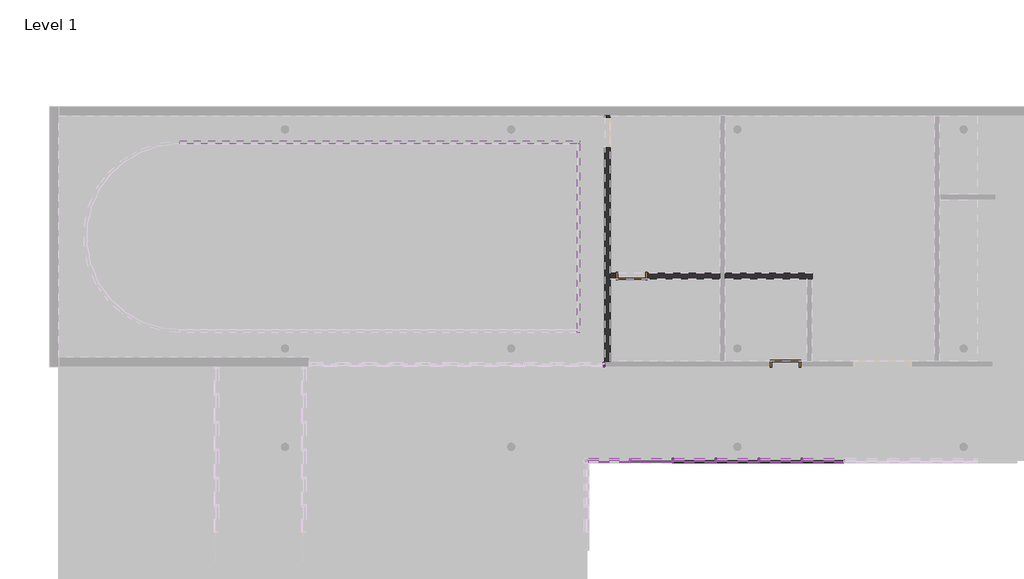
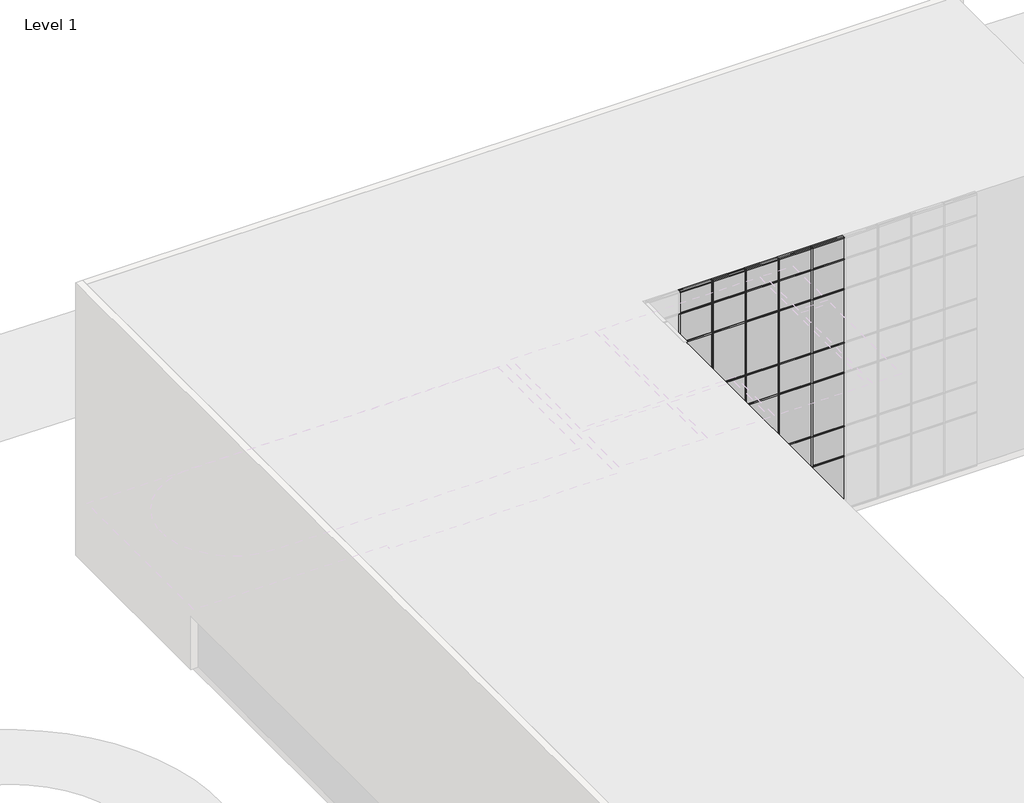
# One storey, part 15 of 18: 76 members, 37 plates, 4 walls, 2 doors.
"""IFC4 building model written with IfcOpenShell, lengths in millimetres."""

from ifc_helpers import new_model, si_unit, origin, place, context, project, spatial, faceted_brep, transform, mapped, element, save
from components import door_0915mm_x_2134mm_2aa27b83, door_0915mm_x_2134mm_3fa07aa3, rectangular_mullion_50mm_x_150mm_550cda47, rectangular_mullion_50mm_x_150mm_0f59f38f, rectangular_mullion_50mm_x_150mm_22af440f, rectangular_mullion_50mm_x_150mm_5a36e067, rectangular_mullion_50mm_x_150mm_73e7bd4c, rectangular_mullion_50mm_x_150mm_da00b109, rectangular_mullion_50mm_x_150mm_bbc1c4ea, rectangular_mullion_50mm_x_150mm_36202a7c, rectangular_mullion_50mm_x_150mm_84717ec5, system_panel_glazed_6032f2be, system_panel_glazed_cd6fe77c, system_panel_solid_87c6c2f1, system_panel_solid_b23a9ee6, system_panel_solid_e0f9033a

model = new_model("IFC4")

# Units and contexts
model_context = context("Model", 3, world=origin())
ifc_project = project(units=[si_unit("LENGTHUNIT", "METRE", prefix="MILLI")], contexts=[model_context])

# Site, building, storey
site = spatial("IfcSite", under=ifc_project)
building = spatial("IfcBuilding", under=site)
storey = spatial("IfcBuildingStorey", under=building, Name="Level 1", Elevation=0.0)

# Doors
placement = place(None, origin())
door_0915mm_x_2134mm_shape = door_0915mm_x_2134mm_2aa27b83(model_context)
element("IfcDoor", 1, ObjectType="m-doors-hm-f1-a : 0915mm x 2134mm", at=placement, inside=storey, context=model_context, shape_type="MappedRepresentation", body=[
    mapped(door_0915mm_x_2134mm_shape, transform((14023.5010724, 22787.5799804, 0.0), x_axis=(1.0, 0.0, 0.0), y_axis=(0.0, 1.0, 0.0), z_axis=(0.0, 0.0, 1.0))),
])
door_0915mm_x_2134mm_2_shape = door_0915mm_x_2134mm_3fa07aa3(model_context)
element("IfcDoor", 2, ObjectType="m-doors-hm-f1-a : 0915mm x 2134mm", at=placement, inside=storey, context=model_context, shape_type="MappedRepresentation", body=[
    mapped(door_0915mm_x_2134mm_2_shape, transform((8939.5010724, 25345.5799804, 0.0), x_axis=(1.0, 0.0, 0.0), y_axis=(0.0, 1.0, 0.0), z_axis=(0.0, 0.0, 1.0))),
])

# Members
rectangular_mullion_50mm_x_150mm_shape = rectangular_mullion_50mm_x_150mm_550cda47(model_context)
element("IfcMember", 3, ObjectType="Rectangular Mullion : 50mm x 150mm", at=placement, inside=storey, context=model_context, shape_type="MappedRepresentation", body=[
    mapped(rectangular_mullion_50mm_x_150mm_shape, transform((8047.5010724, 22595.5799804, 2235.0), x_axis=(1.0, 0.0, 0.0), y_axis=(0.0, 1.0, 0.0), z_axis=(0.0, 0.0, 1.0))),
])
rectangular_mullion_50mm_x_150mm_2_shape = rectangular_mullion_50mm_x_150mm_0f59f38f(model_context)
element("IfcMember", 4, ObjectType="Rectangular Mullion : 50mm x 150mm", at=placement, inside=storey, context=model_context, shape_type="MappedRepresentation", body=[
    mapped(rectangular_mullion_50mm_x_150mm_2_shape, transform((8047.5010724, 22595.5799804, 3550.0), x_axis=(1.0, 0.0, 0.0), y_axis=(0.0, 1.0, 0.0), z_axis=(0.0, 0.0, 1.0))),
])
rectangular_mullion_50mm_x_150mm_3_shape = rectangular_mullion_50mm_x_150mm_22af440f(model_context)
element("IfcMember", 5, ObjectType="Rectangular Mullion : 50mm x 150mm", at=placement, inside=storey, context=model_context, shape_type="MappedRepresentation", body=[
    mapped(rectangular_mullion_50mm_x_150mm_3_shape, transform((8047.5010724, 22595.5799804, 2135.0), x_axis=(1.0, 0.0, 0.0), y_axis=(0.0, 1.0, 0.0), z_axis=(0.0, 0.0, 1.0))),
])
rectangular_mullion_50mm_x_150mm_4_shape = rectangular_mullion_50mm_x_150mm_5a36e067(model_context)
element("IfcMember", 6, ObjectType="Rectangular Mullion : 50mm x 150mm", at=placement, inside=storey, context=model_context, shape_type="MappedRepresentation", body=[
    mapped(rectangular_mullion_50mm_x_150mm_4_shape, transform((10274.5580493, 19414.8392059, 12400.0), x_axis=(0.0, 0.0, 1.0), y_axis=(0.0, -1.0, 0.0), z_axis=(1.0, 0.0, 0.0))),
])
element("IfcMember", 7, ObjectType="Rectangular Mullion : 50mm x 150mm", at=placement, inside=storey, context=model_context, shape_type="MappedRepresentation", body=[
    mapped(rectangular_mullion_50mm_x_150mm_4_shape, transform((11700.5865377, 19414.8392059, 12400.0), x_axis=(0.0, 0.0, 1.0), y_axis=(0.0, -1.0, 0.0), z_axis=(1.0, 0.0, 0.0))),
])
element("IfcMember", 8, ObjectType="Rectangular Mullion : 50mm x 150mm", at=placement, inside=storey, context=model_context, shape_type="MappedRepresentation", body=[
    mapped(rectangular_mullion_50mm_x_150mm_4_shape, transform((13126.615026, 19414.8392059, 12400.0), x_axis=(0.0, 0.0, 1.0), y_axis=(0.0, -1.0, 0.0), z_axis=(1.0, 0.0, 0.0))),
])
element("IfcMember", 9, ObjectType="Rectangular Mullion : 50mm x 150mm", at=placement, inside=storey, context=model_context, shape_type="MappedRepresentation", body=[
    mapped(rectangular_mullion_50mm_x_150mm_4_shape, transform((14552.6435143, 19414.8392059, 12400.0), x_axis=(0.0, 0.0, 1.0), y_axis=(0.0, -1.0, 0.0), z_axis=(1.0, 0.0, 0.0))),
])
element("IfcMember", 10, ObjectType="Rectangular Mullion : 50mm x 150mm", at=placement, inside=storey, context=model_context, shape_type="MappedRepresentation", body=[
    mapped(rectangular_mullion_50mm_x_150mm_4_shape, transform((15978.6720027, 19414.8392059, 12400.0), x_axis=(0.0, 0.0, 1.0), y_axis=(0.0, -1.0, 0.0), z_axis=(1.0, 0.0, 0.0))),
])
element("IfcMember", 11, ObjectType="Rectangular Mullion : 50mm x 150mm", at=placement, inside=storey, context=model_context, shape_type="MappedRepresentation", body=[
    mapped(rectangular_mullion_50mm_x_150mm_4_shape, transform((10324.5580493, 19414.8392059, 0.0), x_axis=(0.0, 0.0, -1.0), y_axis=(0.0, -1.0, 0.0), z_axis=(-1.0, 0.0, 0.0))),
])
element("IfcMember", 12, ObjectType="Rectangular Mullion : 50mm x 150mm", at=placement, inside=storey, context=model_context, shape_type="MappedRepresentation", body=[
    mapped(rectangular_mullion_50mm_x_150mm_4_shape, transform((11750.5865377, 19414.8392059, 0.0), x_axis=(0.0, 0.0, -1.0), y_axis=(0.0, -1.0, 0.0), z_axis=(-1.0, 0.0, 0.0))),
])
element("IfcMember", 13, ObjectType="Rectangular Mullion : 50mm x 150mm", at=placement, inside=storey, context=model_context, shape_type="MappedRepresentation", body=[
    mapped(rectangular_mullion_50mm_x_150mm_4_shape, transform((13176.615026, 19414.8392059, 0.0), x_axis=(0.0, 0.0, -1.0), y_axis=(0.0, -1.0, 0.0), z_axis=(-1.0, 0.0, 0.0))),
])
element("IfcMember", 14, ObjectType="Rectangular Mullion : 50mm x 150mm", at=placement, inside=storey, context=model_context, shape_type="MappedRepresentation", body=[
    mapped(rectangular_mullion_50mm_x_150mm_4_shape, transform((14602.6435143, 19414.8392059, 0.0), x_axis=(0.0, 0.0, -1.0), y_axis=(0.0, -1.0, 0.0), z_axis=(-1.0, 0.0, 0.0))),
])
rectangular_mullion_50mm_x_150mm_5_shape = rectangular_mullion_50mm_x_150mm_73e7bd4c(model_context)
element("IfcMember", 15, ObjectType="Rectangular Mullion : 50mm x 150mm", at=placement, inside=storey, context=model_context, shape_type="MappedRepresentation", body=[
    mapped(rectangular_mullion_50mm_x_150mm_5_shape, transform((10274.5580493, 19414.8392059, 3800.0), x_axis=(0.0, 0.0, 1.0), y_axis=(0.0, -1.0, 0.0), z_axis=(1.0, 0.0, 0.0))),
])
element("IfcMember", 16, ObjectType="Rectangular Mullion : 50mm x 150mm", at=placement, inside=storey, context=model_context, shape_type="MappedRepresentation", body=[
    mapped(rectangular_mullion_50mm_x_150mm_5_shape, transform((11700.5865377, 19414.8392059, 3800.0), x_axis=(0.0, 0.0, 1.0), y_axis=(0.0, -1.0, 0.0), z_axis=(1.0, 0.0, 0.0))),
])
element("IfcMember", 17, ObjectType="Rectangular Mullion : 50mm x 150mm", at=placement, inside=storey, context=model_context, shape_type="MappedRepresentation", body=[
    mapped(rectangular_mullion_50mm_x_150mm_5_shape, transform((13126.615026, 19414.8392059, 3800.0), x_axis=(0.0, 0.0, 1.0), y_axis=(0.0, -1.0, 0.0), z_axis=(1.0, 0.0, 0.0))),
])
element("IfcMember", 18, ObjectType="Rectangular Mullion : 50mm x 150mm", at=placement, inside=storey, context=model_context, shape_type="MappedRepresentation", body=[
    mapped(rectangular_mullion_50mm_x_150mm_5_shape, transform((14552.6435143, 19414.8392059, 3800.0), x_axis=(0.0, 0.0, 1.0), y_axis=(0.0, -1.0, 0.0), z_axis=(1.0, 0.0, 0.0))),
])
element("IfcMember", 19, ObjectType="Rectangular Mullion : 50mm x 150mm", at=placement, inside=storey, context=model_context, shape_type="MappedRepresentation", body=[
    mapped(rectangular_mullion_50mm_x_150mm_5_shape, transform((15978.6720027, 19414.8392059, 3800.0), x_axis=(0.0, 0.0, 1.0), y_axis=(0.0, -1.0, 0.0), z_axis=(1.0, 0.0, 0.0))),
])
element("IfcMember", 20, ObjectType="Rectangular Mullion : 50mm x 150mm", at=placement, inside=storey, context=model_context, shape_type="MappedRepresentation", body=[
    mapped(rectangular_mullion_50mm_x_150mm_5_shape, transform((10274.5580493, 19414.8392059, 7600.0), x_axis=(0.0, 0.0, 1.0), y_axis=(0.0, -1.0, 0.0), z_axis=(1.0, 0.0, 0.0))),
])
element("IfcMember", 21, ObjectType="Rectangular Mullion : 50mm x 150mm", at=placement, inside=storey, context=model_context, shape_type="MappedRepresentation", body=[
    mapped(rectangular_mullion_50mm_x_150mm_5_shape, transform((11700.5865377, 19414.8392059, 7600.0), x_axis=(0.0, 0.0, 1.0), y_axis=(0.0, -1.0, 0.0), z_axis=(1.0, 0.0, 0.0))),
])
element("IfcMember", 22, ObjectType="Rectangular Mullion : 50mm x 150mm", at=placement, inside=storey, context=model_context, shape_type="MappedRepresentation", body=[
    mapped(rectangular_mullion_50mm_x_150mm_5_shape, transform((13126.615026, 19414.8392059, 7600.0), x_axis=(0.0, 0.0, 1.0), y_axis=(0.0, -1.0, 0.0), z_axis=(1.0, 0.0, 0.0))),
])
element("IfcMember", 23, ObjectType="Rectangular Mullion : 50mm x 150mm", at=placement, inside=storey, context=model_context, shape_type="MappedRepresentation", body=[
    mapped(rectangular_mullion_50mm_x_150mm_5_shape, transform((14552.6435143, 19414.8392059, 7600.0), x_axis=(0.0, 0.0, 1.0), y_axis=(0.0, -1.0, 0.0), z_axis=(1.0, 0.0, 0.0))),
])
element("IfcMember", 24, ObjectType="Rectangular Mullion : 50mm x 150mm", at=placement, inside=storey, context=model_context, shape_type="MappedRepresentation", body=[
    mapped(rectangular_mullion_50mm_x_150mm_5_shape, transform((15978.6720027, 19414.8392059, 7600.0), x_axis=(0.0, 0.0, 1.0), y_axis=(0.0, -1.0, 0.0), z_axis=(1.0, 0.0, 0.0))),
])
element("IfcMember", 25, ObjectType="Rectangular Mullion : 50mm x 150mm", at=placement, inside=storey, context=model_context, shape_type="MappedRepresentation", body=[
    mapped(rectangular_mullion_50mm_x_150mm_5_shape, transform((10274.5580493, 19414.8392059, 11400.0), x_axis=(0.0, 0.0, 1.0), y_axis=(0.0, -1.0, 0.0), z_axis=(1.0, 0.0, 0.0))),
])
element("IfcMember", 26, ObjectType="Rectangular Mullion : 50mm x 150mm", at=placement, inside=storey, context=model_context, shape_type="MappedRepresentation", body=[
    mapped(rectangular_mullion_50mm_x_150mm_5_shape, transform((11700.5865377, 19414.8392059, 11400.0), x_axis=(0.0, 0.0, 1.0), y_axis=(0.0, -1.0, 0.0), z_axis=(1.0, 0.0, 0.0))),
])
element("IfcMember", 27, ObjectType="Rectangular Mullion : 50mm x 150mm", at=placement, inside=storey, context=model_context, shape_type="MappedRepresentation", body=[
    mapped(rectangular_mullion_50mm_x_150mm_5_shape, transform((13126.615026, 19414.8392059, 11400.0), x_axis=(0.0, 0.0, 1.0), y_axis=(0.0, -1.0, 0.0), z_axis=(1.0, 0.0, 0.0))),
])
element("IfcMember", 28, ObjectType="Rectangular Mullion : 50mm x 150mm", at=placement, inside=storey, context=model_context, shape_type="MappedRepresentation", body=[
    mapped(rectangular_mullion_50mm_x_150mm_5_shape, transform((14552.6435143, 19414.8392059, 11400.0), x_axis=(0.0, 0.0, 1.0), y_axis=(0.0, -1.0, 0.0), z_axis=(1.0, 0.0, 0.0))),
])
element("IfcMember", 29, ObjectType="Rectangular Mullion : 50mm x 150mm", at=placement, inside=storey, context=model_context, shape_type="MappedRepresentation", body=[
    mapped(rectangular_mullion_50mm_x_150mm_5_shape, transform((15978.6720027, 19414.8392059, 11400.0), x_axis=(0.0, 0.0, 1.0), y_axis=(0.0, -1.0, 0.0), z_axis=(1.0, 0.0, 0.0))),
])
element("IfcMember", 30, ObjectType="Rectangular Mullion : 50mm x 150mm", at=placement, inside=storey, context=model_context, shape_type="MappedRepresentation", body=[
    mapped(rectangular_mullion_50mm_x_150mm_5_shape, transform((10274.5580493, 19414.8392059, 10040.0), x_axis=(0.0, 0.0, 1.0), y_axis=(0.0, -1.0, 0.0), z_axis=(1.0, 0.0, 0.0))),
])
element("IfcMember", 31, ObjectType="Rectangular Mullion : 50mm x 150mm", at=placement, inside=storey, context=model_context, shape_type="MappedRepresentation", body=[
    mapped(rectangular_mullion_50mm_x_150mm_5_shape, transform((11700.5865377, 19414.8392059, 10040.0), x_axis=(0.0, 0.0, 1.0), y_axis=(0.0, -1.0, 0.0), z_axis=(1.0, 0.0, 0.0))),
])
element("IfcMember", 32, ObjectType="Rectangular Mullion : 50mm x 150mm", at=placement, inside=storey, context=model_context, shape_type="MappedRepresentation", body=[
    mapped(rectangular_mullion_50mm_x_150mm_5_shape, transform((13126.615026, 19414.8392059, 10040.0), x_axis=(0.0, 0.0, 1.0), y_axis=(0.0, -1.0, 0.0), z_axis=(1.0, 0.0, 0.0))),
])
element("IfcMember", 33, ObjectType="Rectangular Mullion : 50mm x 150mm", at=placement, inside=storey, context=model_context, shape_type="MappedRepresentation", body=[
    mapped(rectangular_mullion_50mm_x_150mm_5_shape, transform((14552.6435143, 19414.8392059, 10040.0), x_axis=(0.0, 0.0, 1.0), y_axis=(0.0, -1.0, 0.0), z_axis=(1.0, 0.0, 0.0))),
])
element("IfcMember", 34, ObjectType="Rectangular Mullion : 50mm x 150mm", at=placement, inside=storey, context=model_context, shape_type="MappedRepresentation", body=[
    mapped(rectangular_mullion_50mm_x_150mm_5_shape, transform((15978.6720027, 19414.8392059, 10040.0), x_axis=(0.0, 0.0, 1.0), y_axis=(0.0, -1.0, 0.0), z_axis=(1.0, 0.0, 0.0))),
])
element("IfcMember", 35, ObjectType="Rectangular Mullion : 50mm x 150mm", at=placement, inside=storey, context=model_context, shape_type="MappedRepresentation", body=[
    mapped(rectangular_mullion_50mm_x_150mm_5_shape, transform((10274.5580493, 19414.8392059, 6240.0), x_axis=(0.0, 0.0, 1.0), y_axis=(0.0, -1.0, 0.0), z_axis=(1.0, 0.0, 0.0))),
])
element("IfcMember", 36, ObjectType="Rectangular Mullion : 50mm x 150mm", at=placement, inside=storey, context=model_context, shape_type="MappedRepresentation", body=[
    mapped(rectangular_mullion_50mm_x_150mm_5_shape, transform((11700.5865377, 19414.8392059, 6240.0), x_axis=(0.0, 0.0, 1.0), y_axis=(0.0, -1.0, 0.0), z_axis=(1.0, 0.0, 0.0))),
])
element("IfcMember", 37, ObjectType="Rectangular Mullion : 50mm x 150mm", at=placement, inside=storey, context=model_context, shape_type="MappedRepresentation", body=[
    mapped(rectangular_mullion_50mm_x_150mm_5_shape, transform((13126.615026, 19414.8392059, 6240.0), x_axis=(0.0, 0.0, 1.0), y_axis=(0.0, -1.0, 0.0), z_axis=(1.0, 0.0, 0.0))),
])
element("IfcMember", 38, ObjectType="Rectangular Mullion : 50mm x 150mm", at=placement, inside=storey, context=model_context, shape_type="MappedRepresentation", body=[
    mapped(rectangular_mullion_50mm_x_150mm_5_shape, transform((14552.6435143, 19414.8392059, 6240.0), x_axis=(0.0, 0.0, 1.0), y_axis=(0.0, -1.0, 0.0), z_axis=(1.0, 0.0, 0.0))),
])
element("IfcMember", 39, ObjectType="Rectangular Mullion : 50mm x 150mm", at=placement, inside=storey, context=model_context, shape_type="MappedRepresentation", body=[
    mapped(rectangular_mullion_50mm_x_150mm_5_shape, transform((15978.6720027, 19414.8392059, 6240.0), x_axis=(0.0, 0.0, 1.0), y_axis=(0.0, -1.0, 0.0), z_axis=(1.0, 0.0, 0.0))),
])
element("IfcMember", 40, ObjectType="Rectangular Mullion : 50mm x 150mm", at=placement, inside=storey, context=model_context, shape_type="MappedRepresentation", body=[
    mapped(rectangular_mullion_50mm_x_150mm_5_shape, transform((10274.5580493, 19414.8392059, 2440.0), x_axis=(0.0, 0.0, 1.0), y_axis=(0.0, -1.0, 0.0), z_axis=(1.0, 0.0, 0.0))),
])
element("IfcMember", 41, ObjectType="Rectangular Mullion : 50mm x 150mm", at=placement, inside=storey, context=model_context, shape_type="MappedRepresentation", body=[
    mapped(rectangular_mullion_50mm_x_150mm_5_shape, transform((11700.5865377, 19414.8392059, 2440.0), x_axis=(0.0, 0.0, 1.0), y_axis=(0.0, -1.0, 0.0), z_axis=(1.0, 0.0, 0.0))),
])
element("IfcMember", 42, ObjectType="Rectangular Mullion : 50mm x 150mm", at=placement, inside=storey, context=model_context, shape_type="MappedRepresentation", body=[
    mapped(rectangular_mullion_50mm_x_150mm_5_shape, transform((13126.615026, 19414.8392059, 2440.0), x_axis=(0.0, 0.0, 1.0), y_axis=(0.0, -1.0, 0.0), z_axis=(1.0, 0.0, 0.0))),
])
element("IfcMember", 43, ObjectType="Rectangular Mullion : 50mm x 150mm", at=placement, inside=storey, context=model_context, shape_type="MappedRepresentation", body=[
    mapped(rectangular_mullion_50mm_x_150mm_5_shape, transform((14552.6435143, 19414.8392059, 2440.0), x_axis=(0.0, 0.0, 1.0), y_axis=(0.0, -1.0, 0.0), z_axis=(1.0, 0.0, 0.0))),
])
element("IfcMember", 44, ObjectType="Rectangular Mullion : 50mm x 150mm", at=placement, inside=storey, context=model_context, shape_type="MappedRepresentation", body=[
    mapped(rectangular_mullion_50mm_x_150mm_5_shape, transform((15978.6720027, 19414.8392059, 2440.0), x_axis=(0.0, 0.0, 1.0), y_axis=(0.0, -1.0, 0.0), z_axis=(1.0, 0.0, 0.0))),
])
rectangular_mullion_50mm_x_150mm_6_shape = rectangular_mullion_50mm_x_150mm_da00b109(model_context)
element("IfcMember", 45, ObjectType="Rectangular Mullion : 50mm x 150mm", at=placement, inside=storey, context=model_context, shape_type="MappedRepresentation", body=[
    mapped(rectangular_mullion_50mm_x_150mm_6_shape, transform((8848.529561, 19414.8392059, 10040.0), x_axis=(0.0, 0.0, 1.0), y_axis=(0.0, -1.0, 0.0), z_axis=(1.0, 0.0, 0.0))),
])
element("IfcMember", 46, ObjectType="Rectangular Mullion : 50mm x 150mm", at=placement, inside=storey, context=model_context, shape_type="MappedRepresentation", body=[
    mapped(rectangular_mullion_50mm_x_150mm_6_shape, transform((8848.529561, 19414.8392059, 6240.0), x_axis=(0.0, 0.0, 1.0), y_axis=(0.0, -1.0, 0.0), z_axis=(1.0, 0.0, 0.0))),
])
element("IfcMember", 47, ObjectType="Rectangular Mullion : 50mm x 150mm", at=placement, inside=storey, context=model_context, shape_type="MappedRepresentation", body=[
    mapped(rectangular_mullion_50mm_x_150mm_6_shape, transform((8848.529561, 19414.8392059, 2440.0), x_axis=(0.0, 0.0, 1.0), y_axis=(0.0, -1.0, 0.0), z_axis=(1.0, 0.0, 0.0))),
])
rectangular_mullion_50mm_x_150mm_7_shape = rectangular_mullion_50mm_x_150mm_bbc1c4ea(model_context)
element("IfcMember", 48, ObjectType="Rectangular Mullion : 50mm x 150mm", at=placement, inside=storey, context=model_context, shape_type="MappedRepresentation", body=[
    mapped(rectangular_mullion_50mm_x_150mm_7_shape, transform((10299.5580493, 19414.8392059, 11400.0), x_axis=(1.0, 0.0, 0.0), y_axis=(0.0, -1.0, 0.0), z_axis=(0.0, 0.0, -1.0))),
])
element("IfcMember", 49, ObjectType="Rectangular Mullion : 50mm x 150mm", at=placement, inside=storey, context=model_context, shape_type="MappedRepresentation", body=[
    mapped(rectangular_mullion_50mm_x_150mm_7_shape, transform((11725.5865377, 19414.8392059, 11400.0), x_axis=(1.0, 0.0, 0.0), y_axis=(0.0, -1.0, 0.0), z_axis=(0.0, 0.0, -1.0))),
])
element("IfcMember", 50, ObjectType="Rectangular Mullion : 50mm x 150mm", at=placement, inside=storey, context=model_context, shape_type="MappedRepresentation", body=[
    mapped(rectangular_mullion_50mm_x_150mm_7_shape, transform((13151.615026, 19414.8392059, 11400.0), x_axis=(1.0, 0.0, 0.0), y_axis=(0.0, -1.0, 0.0), z_axis=(0.0, 0.0, -1.0))),
])
element("IfcMember", 51, ObjectType="Rectangular Mullion : 50mm x 150mm", at=placement, inside=storey, context=model_context, shape_type="MappedRepresentation", body=[
    mapped(rectangular_mullion_50mm_x_150mm_7_shape, transform((14577.6435143, 19414.8392059, 11400.0), x_axis=(1.0, 0.0, 0.0), y_axis=(0.0, -1.0, 0.0), z_axis=(0.0, 0.0, -1.0))),
])
rectangular_mullion_50mm_x_150mm_8_shape = rectangular_mullion_50mm_x_150mm_36202a7c(model_context)
element("IfcMember", 52, ObjectType="Rectangular Mullion : 50mm x 150mm", at=placement, inside=storey, context=model_context, shape_type="MappedRepresentation", body=[
    mapped(rectangular_mullion_50mm_x_150mm_8_shape, transform((10299.5580493, 19414.8392059, 0.0), x_axis=(1.0, 0.0, 0.0), y_axis=(0.0, -1.0, 0.0), z_axis=(0.0, 0.0, -1.0))),
])
element("IfcMember", 53, ObjectType="Rectangular Mullion : 50mm x 150mm", at=placement, inside=storey, context=model_context, shape_type="MappedRepresentation", body=[
    mapped(rectangular_mullion_50mm_x_150mm_8_shape, transform((11725.5865377, 19414.8392059, 0.0), x_axis=(1.0, 0.0, 0.0), y_axis=(0.0, -1.0, 0.0), z_axis=(0.0, 0.0, -1.0))),
])
element("IfcMember", 54, ObjectType="Rectangular Mullion : 50mm x 150mm", at=placement, inside=storey, context=model_context, shape_type="MappedRepresentation", body=[
    mapped(rectangular_mullion_50mm_x_150mm_8_shape, transform((13151.615026, 19414.8392059, 0.0), x_axis=(1.0, 0.0, 0.0), y_axis=(0.0, -1.0, 0.0), z_axis=(0.0, 0.0, -1.0))),
])
element("IfcMember", 55, ObjectType="Rectangular Mullion : 50mm x 150mm", at=placement, inside=storey, context=model_context, shape_type="MappedRepresentation", body=[
    mapped(rectangular_mullion_50mm_x_150mm_8_shape, transform((14577.6435143, 19414.8392059, 0.0), x_axis=(1.0, 0.0, 0.0), y_axis=(0.0, -1.0, 0.0), z_axis=(0.0, 0.0, -1.0))),
])
rectangular_mullion_50mm_x_150mm_9_shape = rectangular_mullion_50mm_x_150mm_84717ec5(model_context)
element("IfcMember", 56, ObjectType="Rectangular Mullion : 50mm x 150mm", at=placement, inside=storey, context=model_context, shape_type="MappedRepresentation", body=[
    mapped(rectangular_mullion_50mm_x_150mm_9_shape, transform((8873.529561, 19414.8392059, 10040.0), x_axis=(1.0, 0.0, 0.0), y_axis=(0.0, -1.0, 0.0), z_axis=(0.0, 0.0, -1.0))),
])
element("IfcMember", 57, ObjectType="Rectangular Mullion : 50mm x 150mm", at=placement, inside=storey, context=model_context, shape_type="MappedRepresentation", body=[
    mapped(rectangular_mullion_50mm_x_150mm_9_shape, transform((10299.5580493, 19414.8392059, 10040.0), x_axis=(1.0, 0.0, 0.0), y_axis=(0.0, -1.0, 0.0), z_axis=(0.0, 0.0, -1.0))),
])
element("IfcMember", 58, ObjectType="Rectangular Mullion : 50mm x 150mm", at=placement, inside=storey, context=model_context, shape_type="MappedRepresentation", body=[
    mapped(rectangular_mullion_50mm_x_150mm_9_shape, transform((11725.5865377, 19414.8392059, 10040.0), x_axis=(1.0, 0.0, 0.0), y_axis=(0.0, -1.0, 0.0), z_axis=(0.0, 0.0, -1.0))),
])
element("IfcMember", 59, ObjectType="Rectangular Mullion : 50mm x 150mm", at=placement, inside=storey, context=model_context, shape_type="MappedRepresentation", body=[
    mapped(rectangular_mullion_50mm_x_150mm_9_shape, transform((13151.615026, 19414.8392059, 10040.0), x_axis=(1.0, 0.0, 0.0), y_axis=(0.0, -1.0, 0.0), z_axis=(0.0, 0.0, -1.0))),
])
element("IfcMember", 60, ObjectType="Rectangular Mullion : 50mm x 150mm", at=placement, inside=storey, context=model_context, shape_type="MappedRepresentation", body=[
    mapped(rectangular_mullion_50mm_x_150mm_9_shape, transform((14577.6435143, 19414.8392059, 10040.0), x_axis=(1.0, 0.0, 0.0), y_axis=(0.0, -1.0, 0.0), z_axis=(0.0, 0.0, -1.0))),
])
element("IfcMember", 61, ObjectType="Rectangular Mullion : 50mm x 150mm", at=placement, inside=storey, context=model_context, shape_type="MappedRepresentation", body=[
    mapped(rectangular_mullion_50mm_x_150mm_9_shape, transform((8873.529561, 19414.8392059, 6240.0), x_axis=(1.0, 0.0, 0.0), y_axis=(0.0, -1.0, 0.0), z_axis=(0.0, 0.0, -1.0))),
])
element("IfcMember", 62, ObjectType="Rectangular Mullion : 50mm x 150mm", at=placement, inside=storey, context=model_context, shape_type="MappedRepresentation", body=[
    mapped(rectangular_mullion_50mm_x_150mm_9_shape, transform((10299.5580493, 19414.8392059, 6240.0), x_axis=(1.0, 0.0, 0.0), y_axis=(0.0, -1.0, 0.0), z_axis=(0.0, 0.0, -1.0))),
])
element("IfcMember", 63, ObjectType="Rectangular Mullion : 50mm x 150mm", at=placement, inside=storey, context=model_context, shape_type="MappedRepresentation", body=[
    mapped(rectangular_mullion_50mm_x_150mm_9_shape, transform((11725.5865377, 19414.8392059, 6240.0), x_axis=(1.0, 0.0, 0.0), y_axis=(0.0, -1.0, 0.0), z_axis=(0.0, 0.0, -1.0))),
])
element("IfcMember", 64, ObjectType="Rectangular Mullion : 50mm x 150mm", at=placement, inside=storey, context=model_context, shape_type="MappedRepresentation", body=[
    mapped(rectangular_mullion_50mm_x_150mm_9_shape, transform((13151.615026, 19414.8392059, 6240.0), x_axis=(1.0, 0.0, 0.0), y_axis=(0.0, -1.0, 0.0), z_axis=(0.0, 0.0, -1.0))),
])
element("IfcMember", 65, ObjectType="Rectangular Mullion : 50mm x 150mm", at=placement, inside=storey, context=model_context, shape_type="MappedRepresentation", body=[
    mapped(rectangular_mullion_50mm_x_150mm_9_shape, transform((14577.6435143, 19414.8392059, 6240.0), x_axis=(1.0, 0.0, 0.0), y_axis=(0.0, -1.0, 0.0), z_axis=(0.0, 0.0, -1.0))),
])
element("IfcMember", 66, ObjectType="Rectangular Mullion : 50mm x 150mm", at=placement, inside=storey, context=model_context, shape_type="MappedRepresentation", body=[
    mapped(rectangular_mullion_50mm_x_150mm_9_shape, transform((8873.529561, 19414.8392059, 2440.0), x_axis=(1.0, 0.0, 0.0), y_axis=(0.0, -1.0, 0.0), z_axis=(0.0, 0.0, -1.0))),
])
element("IfcMember", 67, ObjectType="Rectangular Mullion : 50mm x 150mm", at=placement, inside=storey, context=model_context, shape_type="MappedRepresentation", body=[
    mapped(rectangular_mullion_50mm_x_150mm_9_shape, transform((10299.5580493, 19414.8392059, 2440.0), x_axis=(1.0, 0.0, 0.0), y_axis=(0.0, -1.0, 0.0), z_axis=(0.0, 0.0, -1.0))),
])
element("IfcMember", 68, ObjectType="Rectangular Mullion : 50mm x 150mm", at=placement, inside=storey, context=model_context, shape_type="MappedRepresentation", body=[
    mapped(rectangular_mullion_50mm_x_150mm_9_shape, transform((11725.5865377, 19414.8392059, 2440.0), x_axis=(1.0, 0.0, 0.0), y_axis=(0.0, -1.0, 0.0), z_axis=(0.0, 0.0, -1.0))),
])
element("IfcMember", 69, ObjectType="Rectangular Mullion : 50mm x 150mm", at=placement, inside=storey, context=model_context, shape_type="MappedRepresentation", body=[
    mapped(rectangular_mullion_50mm_x_150mm_9_shape, transform((13151.615026, 19414.8392059, 2440.0), x_axis=(1.0, 0.0, 0.0), y_axis=(0.0, -1.0, 0.0), z_axis=(0.0, 0.0, -1.0))),
])
element("IfcMember", 70, ObjectType="Rectangular Mullion : 50mm x 150mm", at=placement, inside=storey, context=model_context, shape_type="MappedRepresentation", body=[
    mapped(rectangular_mullion_50mm_x_150mm_9_shape, transform((14577.6435143, 19414.8392059, 2440.0), x_axis=(1.0, 0.0, 0.0), y_axis=(0.0, -1.0, 0.0), z_axis=(0.0, 0.0, -1.0))),
])
element("IfcMember", 71, ObjectType="Rectangular Mullion : 50mm x 150mm", at=placement, inside=storey, context=model_context, shape_type="MappedRepresentation", body=[
    mapped(rectangular_mullion_50mm_x_150mm_8_shape, transform((10299.5580493, 19414.8392059, 3800.0), x_axis=(1.0, 0.0, 0.0), y_axis=(0.0, -1.0, 0.0), z_axis=(0.0, 0.0, -1.0))),
])
element("IfcMember", 72, ObjectType="Rectangular Mullion : 50mm x 150mm", at=placement, inside=storey, context=model_context, shape_type="MappedRepresentation", body=[
    mapped(rectangular_mullion_50mm_x_150mm_8_shape, transform((11725.5865377, 19414.8392059, 3800.0), x_axis=(1.0, 0.0, 0.0), y_axis=(0.0, -1.0, 0.0), z_axis=(0.0, 0.0, -1.0))),
])
element("IfcMember", 73, ObjectType="Rectangular Mullion : 50mm x 150mm", at=placement, inside=storey, context=model_context, shape_type="MappedRepresentation", body=[
    mapped(rectangular_mullion_50mm_x_150mm_8_shape, transform((13151.615026, 19414.8392059, 3800.0), x_axis=(1.0, 0.0, 0.0), y_axis=(0.0, -1.0, 0.0), z_axis=(0.0, 0.0, -1.0))),
])
element("IfcMember", 74, ObjectType="Rectangular Mullion : 50mm x 150mm", at=placement, inside=storey, context=model_context, shape_type="MappedRepresentation", body=[
    mapped(rectangular_mullion_50mm_x_150mm_8_shape, transform((14577.6435143, 19414.8392059, 3800.0), x_axis=(1.0, 0.0, 0.0), y_axis=(0.0, -1.0, 0.0), z_axis=(0.0, 0.0, -1.0))),
])
element("IfcMember", 75, ObjectType="Rectangular Mullion : 50mm x 150mm", at=placement, inside=storey, context=model_context, shape_type="MappedRepresentation", body=[
    mapped(rectangular_mullion_50mm_x_150mm_8_shape, transform((10299.5580493, 19414.8392059, 7600.0), x_axis=(1.0, 0.0, 0.0), y_axis=(0.0, -1.0, 0.0), z_axis=(0.0, 0.0, -1.0))),
])
element("IfcMember", 76, ObjectType="Rectangular Mullion : 50mm x 150mm", at=placement, inside=storey, context=model_context, shape_type="MappedRepresentation", body=[
    mapped(rectangular_mullion_50mm_x_150mm_8_shape, transform((11725.5865377, 19414.8392059, 7600.0), x_axis=(1.0, 0.0, 0.0), y_axis=(0.0, -1.0, 0.0), z_axis=(0.0, 0.0, -1.0))),
])
element("IfcMember", 77, ObjectType="Rectangular Mullion : 50mm x 150mm", at=placement, inside=storey, context=model_context, shape_type="MappedRepresentation", body=[
    mapped(rectangular_mullion_50mm_x_150mm_8_shape, transform((13151.615026, 19414.8392059, 7600.0), x_axis=(1.0, 0.0, 0.0), y_axis=(0.0, -1.0, 0.0), z_axis=(0.0, 0.0, -1.0))),
])
element("IfcMember", 78, ObjectType="Rectangular Mullion : 50mm x 150mm", at=placement, inside=storey, context=model_context, shape_type="MappedRepresentation", body=[
    mapped(rectangular_mullion_50mm_x_150mm_8_shape, transform((14577.6435143, 19414.8392059, 7600.0), x_axis=(1.0, 0.0, 0.0), y_axis=(0.0, -1.0, 0.0), z_axis=(0.0, 0.0, -1.0))),
])

# Plates
system_panel_glazed_shape = system_panel_glazed_6032f2be(model_context)
element("IfcPlate", 79, ObjectType="System Panel : Glazed", at=placement, inside=storey, context=model_context, shape_type="MappedRepresentation", body=[
    mapped(system_panel_glazed_shape, transform((9586.5438052, 19414.8392059, 3825.0), x_axis=(1.0, 0.0, 0.0), y_axis=(0.0, 1.0, 0.0), z_axis=(0.0, 0.0, 1.0))),
])
element("IfcPlate", 80, ObjectType="System Panel : Glazed", at=placement, inside=storey, context=model_context, shape_type="MappedRepresentation", body=[
    mapped(system_panel_glazed_shape, transform((11012.5722935, 19414.8392059, 3825.0), x_axis=(1.0, 0.0, 0.0), y_axis=(0.0, 1.0, 0.0), z_axis=(0.0, 0.0, 1.0))),
])
element("IfcPlate", 81, ObjectType="System Panel : Glazed", at=placement, inside=storey, context=model_context, shape_type="MappedRepresentation", body=[
    mapped(system_panel_glazed_shape, transform((12438.6007818, 19414.8392059, 3825.0), x_axis=(1.0, 0.0, 0.0), y_axis=(0.0, 1.0, 0.0), z_axis=(0.0, 0.0, 1.0))),
])
element("IfcPlate", 82, ObjectType="System Panel : Glazed", at=placement, inside=storey, context=model_context, shape_type="MappedRepresentation", body=[
    mapped(system_panel_glazed_shape, transform((13864.6292702, 19414.8392059, 3825.0), x_axis=(1.0, 0.0, 0.0), y_axis=(0.0, 1.0, 0.0), z_axis=(0.0, 0.0, 1.0))),
])
element("IfcPlate", 83, ObjectType="System Panel : Glazed", at=placement, inside=storey, context=model_context, shape_type="MappedRepresentation", body=[
    mapped(system_panel_glazed_shape, transform((15290.6577585, 19414.8392059, 3825.0), x_axis=(1.0, 0.0, 0.0), y_axis=(0.0, 1.0, 0.0), z_axis=(0.0, 0.0, 1.0))),
])
element("IfcPlate", 84, ObjectType="System Panel : Glazed", at=placement, inside=storey, context=model_context, shape_type="MappedRepresentation", body=[
    mapped(system_panel_glazed_shape, transform((9586.5438052, 19414.8392059, 7625.0), x_axis=(1.0, 0.0, 0.0), y_axis=(0.0, 1.0, 0.0), z_axis=(0.0, 0.0, 1.0))),
])
element("IfcPlate", 85, ObjectType="System Panel : Glazed", at=placement, inside=storey, context=model_context, shape_type="MappedRepresentation", body=[
    mapped(system_panel_glazed_shape, transform((11012.5722935, 19414.8392059, 7625.0), x_axis=(1.0, 0.0, 0.0), y_axis=(0.0, 1.0, 0.0), z_axis=(0.0, 0.0, 1.0))),
])
element("IfcPlate", 86, ObjectType="System Panel : Glazed", at=placement, inside=storey, context=model_context, shape_type="MappedRepresentation", body=[
    mapped(system_panel_glazed_shape, transform((12438.6007818, 19414.8392059, 7625.0), x_axis=(1.0, 0.0, 0.0), y_axis=(0.0, 1.0, 0.0), z_axis=(0.0, 0.0, 1.0))),
])
element("IfcPlate", 87, ObjectType="System Panel : Glazed", at=placement, inside=storey, context=model_context, shape_type="MappedRepresentation", body=[
    mapped(system_panel_glazed_shape, transform((13864.6292702, 19414.8392059, 7625.0), x_axis=(1.0, 0.0, 0.0), y_axis=(0.0, 1.0, 0.0), z_axis=(0.0, 0.0, 1.0))),
])
element("IfcPlate", 88, ObjectType="System Panel : Glazed", at=placement, inside=storey, context=model_context, shape_type="MappedRepresentation", body=[
    mapped(system_panel_glazed_shape, transform((15290.6577585, 19414.8392059, 7625.0), x_axis=(1.0, 0.0, 0.0), y_axis=(0.0, 1.0, 0.0), z_axis=(0.0, 0.0, 1.0))),
])
system_panel_glazed_2_shape = system_panel_glazed_cd6fe77c(model_context)
element("IfcPlate", 89, ObjectType="System Panel : Glazed", at=placement, inside=storey, context=model_context, shape_type="MappedRepresentation", body=[
    mapped(system_panel_glazed_2_shape, transform((9586.5438052, 19414.8392059, 50.0), x_axis=(1.0, 0.0, 0.0), y_axis=(0.0, 1.0, 0.0), z_axis=(0.0, 0.0, 1.0))),
])
element("IfcPlate", 90, ObjectType="System Panel : Glazed", at=placement, inside=storey, context=model_context, shape_type="MappedRepresentation", body=[
    mapped(system_panel_glazed_2_shape, transform((11012.5722935, 19414.8392059, 50.0), x_axis=(1.0, 0.0, 0.0), y_axis=(0.0, 1.0, 0.0), z_axis=(0.0, 0.0, 1.0))),
])
element("IfcPlate", 91, ObjectType="System Panel : Glazed", at=placement, inside=storey, context=model_context, shape_type="MappedRepresentation", body=[
    mapped(system_panel_glazed_2_shape, transform((12438.6007818, 19414.8392059, 50.0), x_axis=(1.0, 0.0, 0.0), y_axis=(0.0, 1.0, 0.0), z_axis=(0.0, 0.0, 1.0))),
])
element("IfcPlate", 92, ObjectType="System Panel : Glazed", at=placement, inside=storey, context=model_context, shape_type="MappedRepresentation", body=[
    mapped(system_panel_glazed_2_shape, transform((13864.6292702, 19414.8392059, 50.0), x_axis=(1.0, 0.0, 0.0), y_axis=(0.0, 1.0, 0.0), z_axis=(0.0, 0.0, 1.0))),
])
element("IfcPlate", 93, ObjectType="System Panel : Glazed", at=placement, inside=storey, context=model_context, shape_type="MappedRepresentation", body=[
    mapped(system_panel_glazed_2_shape, transform((15290.6577585, 19414.8392059, 50.0), x_axis=(1.0, 0.0, 0.0), y_axis=(0.0, 1.0, 0.0), z_axis=(0.0, 0.0, 1.0))),
])
system_panel_solid_shape = system_panel_solid_87c6c2f1(model_context)
element("IfcPlate", 94, ObjectType="System Panel : Solid", at=placement, inside=storey, context=model_context, shape_type="MappedRepresentation", body=[
    mapped(system_panel_solid_shape, transform((9586.5438052, 19414.8392059, 11425.0), x_axis=(1.0, 0.0, 0.0), y_axis=(0.0, 1.0, 0.0), z_axis=(0.0, 0.0, 1.0))),
])
element("IfcPlate", 95, ObjectType="System Panel : Solid", at=placement, inside=storey, context=model_context, shape_type="MappedRepresentation", body=[
    mapped(system_panel_solid_shape, transform((11012.5722935, 19414.8392059, 11425.0), x_axis=(1.0, 0.0, 0.0), y_axis=(0.0, 1.0, 0.0), z_axis=(0.0, 0.0, 1.0))),
])
element("IfcPlate", 96, ObjectType="System Panel : Solid", at=placement, inside=storey, context=model_context, shape_type="MappedRepresentation", body=[
    mapped(system_panel_solid_shape, transform((12438.6007818, 19414.8392059, 11425.0), x_axis=(1.0, 0.0, 0.0), y_axis=(0.0, 1.0, 0.0), z_axis=(0.0, 0.0, 1.0))),
])
element("IfcPlate", 97, ObjectType="System Panel : Solid", at=placement, inside=storey, context=model_context, shape_type="MappedRepresentation", body=[
    mapped(system_panel_solid_shape, transform((13864.6292702, 19414.8392059, 11425.0), x_axis=(1.0, 0.0, 0.0), y_axis=(0.0, 1.0, 0.0), z_axis=(0.0, 0.0, 1.0))),
])
element("IfcPlate", 98, ObjectType="System Panel : Solid", at=placement, inside=storey, context=model_context, shape_type="MappedRepresentation", body=[
    mapped(system_panel_solid_shape, transform((15290.6577585, 19414.8392059, 11425.0), x_axis=(1.0, 0.0, 0.0), y_axis=(0.0, 1.0, 0.0), z_axis=(0.0, 0.0, 1.0))),
])
system_panel_solid_2_shape = system_panel_solid_b23a9ee6(model_context)
element("IfcPlate", 99, ObjectType="System Panel : Solid", at=placement, inside=storey, context=model_context, shape_type="MappedRepresentation", body=[
    mapped(system_panel_solid_2_shape, transform((8185.5153167, 19414.8392059, 6265.0), x_axis=(1.0, 0.0, 0.0), y_axis=(0.0, 1.0, 0.0), z_axis=(0.0, 0.0, 1.0))),
])
element("IfcPlate", 100, ObjectType="System Panel : Solid", at=placement, inside=storey, context=model_context, shape_type="MappedRepresentation", body=[
    mapped(system_panel_solid_2_shape, transform((8185.5153167, 19414.8392059, 2465.0), x_axis=(1.0, 0.0, 0.0), y_axis=(0.0, 1.0, 0.0), z_axis=(0.0, 0.0, 1.0))),
])
system_panel_solid_3_shape = system_panel_solid_e0f9033a(model_context)
element("IfcPlate", 101, ObjectType="System Panel : Solid", at=placement, inside=storey, context=model_context, shape_type="MappedRepresentation", body=[
    mapped(system_panel_solid_3_shape, transform((9586.5438052, 19414.8392059, 10065.0), x_axis=(1.0, 0.0, 0.0), y_axis=(0.0, 1.0, 0.0), z_axis=(0.0, 0.0, 1.0))),
])
element("IfcPlate", 102, ObjectType="System Panel : Solid", at=placement, inside=storey, context=model_context, shape_type="MappedRepresentation", body=[
    mapped(system_panel_solid_3_shape, transform((11012.5722935, 19414.8392059, 10065.0), x_axis=(1.0, 0.0, 0.0), y_axis=(0.0, 1.0, 0.0), z_axis=(0.0, 0.0, 1.0))),
])
element("IfcPlate", 103, ObjectType="System Panel : Solid", at=placement, inside=storey, context=model_context, shape_type="MappedRepresentation", body=[
    mapped(system_panel_solid_3_shape, transform((12438.6007818, 19414.8392059, 10065.0), x_axis=(1.0, 0.0, 0.0), y_axis=(0.0, 1.0, 0.0), z_axis=(0.0, 0.0, 1.0))),
])
element("IfcPlate", 104, ObjectType="System Panel : Solid", at=placement, inside=storey, context=model_context, shape_type="MappedRepresentation", body=[
    mapped(system_panel_solid_3_shape, transform((13864.6292702, 19414.8392059, 10065.0), x_axis=(1.0, 0.0, 0.0), y_axis=(0.0, 1.0, 0.0), z_axis=(0.0, 0.0, 1.0))),
])
element("IfcPlate", 105, ObjectType="System Panel : Solid", at=placement, inside=storey, context=model_context, shape_type="MappedRepresentation", body=[
    mapped(system_panel_solid_3_shape, transform((15290.6577585, 19414.8392059, 10065.0), x_axis=(1.0, 0.0, 0.0), y_axis=(0.0, 1.0, 0.0), z_axis=(0.0, 0.0, 1.0))),
])
element("IfcPlate", 106, ObjectType="System Panel : Solid", at=placement, inside=storey, context=model_context, shape_type="MappedRepresentation", body=[
    mapped(system_panel_solid_3_shape, transform((9586.5438052, 19414.8392059, 6265.0), x_axis=(1.0, 0.0, 0.0), y_axis=(0.0, 1.0, 0.0), z_axis=(0.0, 0.0, 1.0))),
])
element("IfcPlate", 107, ObjectType="System Panel : Solid", at=placement, inside=storey, context=model_context, shape_type="MappedRepresentation", body=[
    mapped(system_panel_solid_3_shape, transform((11012.5722935, 19414.8392059, 6265.0), x_axis=(1.0, 0.0, 0.0), y_axis=(0.0, 1.0, 0.0), z_axis=(0.0, 0.0, 1.0))),
])
element("IfcPlate", 108, ObjectType="System Panel : Solid", at=placement, inside=storey, context=model_context, shape_type="MappedRepresentation", body=[
    mapped(system_panel_solid_3_shape, transform((12438.6007818, 19414.8392059, 6265.0), x_axis=(1.0, 0.0, 0.0), y_axis=(0.0, 1.0, 0.0), z_axis=(0.0, 0.0, 1.0))),
])
element("IfcPlate", 109, ObjectType="System Panel : Solid", at=placement, inside=storey, context=model_context, shape_type="MappedRepresentation", body=[
    mapped(system_panel_solid_3_shape, transform((13864.6292702, 19414.8392059, 6265.0), x_axis=(1.0, 0.0, 0.0), y_axis=(0.0, 1.0, 0.0), z_axis=(0.0, 0.0, 1.0))),
])
element("IfcPlate", 110, ObjectType="System Panel : Solid", at=placement, inside=storey, context=model_context, shape_type="MappedRepresentation", body=[
    mapped(system_panel_solid_3_shape, transform((15290.6577585, 19414.8392059, 6265.0), x_axis=(1.0, 0.0, 0.0), y_axis=(0.0, 1.0, 0.0), z_axis=(0.0, 0.0, 1.0))),
])
element("IfcPlate", 111, ObjectType="System Panel : Solid", at=placement, inside=storey, context=model_context, shape_type="MappedRepresentation", body=[
    mapped(system_panel_solid_3_shape, transform((9586.5438052, 19414.8392059, 2465.0), x_axis=(1.0, 0.0, 0.0), y_axis=(0.0, 1.0, 0.0), z_axis=(0.0, 0.0, 1.0))),
])
element("IfcPlate", 112, ObjectType="System Panel : Solid", at=placement, inside=storey, context=model_context, shape_type="MappedRepresentation", body=[
    mapped(system_panel_solid_3_shape, transform((11012.5722935, 19414.8392059, 2465.0), x_axis=(1.0, 0.0, 0.0), y_axis=(0.0, 1.0, 0.0), z_axis=(0.0, 0.0, 1.0))),
])
element("IfcPlate", 113, ObjectType="System Panel : Solid", at=placement, inside=storey, context=model_context, shape_type="MappedRepresentation", body=[
    mapped(system_panel_solid_3_shape, transform((12438.6007818, 19414.8392059, 2465.0), x_axis=(1.0, 0.0, 0.0), y_axis=(0.0, 1.0, 0.0), z_axis=(0.0, 0.0, 1.0))),
])
element("IfcPlate", 114, ObjectType="System Panel : Solid", at=placement, inside=storey, context=model_context, shape_type="MappedRepresentation", body=[
    mapped(system_panel_solid_3_shape, transform((13864.6292702, 19414.8392059, 2465.0), x_axis=(1.0, 0.0, 0.0), y_axis=(0.0, 1.0, 0.0), z_axis=(0.0, 0.0, 1.0))),
])
element("IfcPlate", 115, ObjectType="System Panel : Solid", at=placement, inside=storey, context=model_context, shape_type="MappedRepresentation", body=[
    mapped(system_panel_solid_3_shape, transform((15290.6577585, 19414.8392059, 2465.0), x_axis=(1.0, 0.0, 0.0), y_axis=(0.0, 1.0, 0.0), z_axis=(0.0, 0.0, 1.0))),
])

# Walls
element("IfcWall", 116, ObjectType="P6 184mm - 1HR - ULC #W453", at=placement, inside=storey, context=model_context, shape_type="Brep", body=[
    faceted_brep([(8231.5010724, 30818.5799804, 3550.0), (8231.5010724, 25612.5799804, 3550.0), (8231.5010724, 25428.5799804, 3550.0), (8231.5010724, 22704.5799804, 3550.0), (8231.5010724, 22704.5799804, 0.0), (8231.5010724, 25428.5799804, 0.0), (8231.5010724, 25612.5799804, 0.0), (8231.5010724, 29762.0799804, 0.0), (8231.5010724, 29762.0799804, 2184.0), (8231.5010724, 30777.0799804, 2184.0), (8231.5010724, 30777.0799804, 0.0), (8231.5010724, 30818.5799804, 0.0), (8047.5010724, 22704.5799804, 3550.0), (8047.5010724, 30818.5799804, 3550.0), (8047.5010724, 30818.5799804, 0.0), (8047.5010724, 30777.0799804, 0.0), (8047.5010724, 30777.0799804, 2184.0), (8047.5010724, 29762.0799804, 2184.0), (8047.5010724, 29762.0799804, 0.0), (8047.5010724, 22704.5799804, 0.0)], [[[0, 1, 2, 3, 4, 5, 6, 7, 8, 9, 10, 11]], [[12, 13, 14, 15, 16, 17, 18, 19]], [[4, 19, 18, 7, 6, 5]], [[14, 11, 10, 15]], [[3, 2, 1, 0, 13, 12]], [[0, 11, 14, 13]], [[4, 3, 12, 19]], [[17, 8, 7, 18]], [[8, 17, 16, 9]], [[9, 16, 15, 10]]]),
])
element("IfcWall", 117, ObjectType="P6 184mm - 1HR - ULC #W453", at=placement, inside=storey, context=model_context, shape_type="Brep", body=[
    faceted_brep([(8231.5010724, 25428.5799804, 3550.0), (8231.5010724, 25428.5799804, 0.0), (8432.0010724, 25428.5799804, 0.0), (8432.0010724, 25428.5799804, 2184.0), (9447.0010724, 25428.5799804, 2184.0), (9447.0010724, 25428.5799804, 0.0), (11847.5010724, 25428.5799804, 0.0), (11847.5010724, 25428.5799804, 3550.0), (8231.5010724, 25612.5799804, 0.0), (8231.5010724, 25612.5799804, 3550.0), (11847.5010724, 25612.5799804, 3550.0), (11847.5010724, 25612.5799804, 0.0), (9447.0010724, 25612.5799804, 0.0), (9447.0010724, 25612.5799804, 2184.0), (8432.0010724, 25612.5799804, 2184.0), (8432.0010724, 25612.5799804, 0.0)], [[[0, 1, 2, 3, 4, 5, 6, 7]], [[8, 9, 10, 11, 12, 13, 14, 15]], [[1, 8, 15, 2]], [[5, 12, 11, 6]], [[9, 0, 7, 10]], [[1, 0, 9, 8]], [[7, 6, 11, 10]], [[5, 4, 13, 12]], [[4, 3, 14, 13]], [[3, 2, 15, 14]]]),
    faceted_brep([(14915.5010724, 25428.5799804, 0.0), (14915.5010724, 25428.5799804, 3550.0), (14731.5010724, 25428.5799804, 3550.0), (12031.5010724, 25428.5799804, 3550.0), (12031.5010724, 25428.5799804, 0.0), (14731.5010724, 25428.5799804, 0.0), (14915.5010724, 25612.5799804, 3550.0), (14915.5010724, 25612.5799804, 0.0), (12031.5010724, 25612.5799804, 0.0), (12031.5010724, 25612.5799804, 3550.0)], [[[0, 1, 2, 3, 4, 5]], [[6, 7, 8, 9]], [[7, 0, 5, 4, 8]], [[1, 6, 9, 3, 2]], [[4, 3, 9, 8]], [[1, 0, 7, 6]]]),
])
element("IfcWall", 118, ObjectType="P3 96mm", at=placement, inside=storey, context=model_context, shape_type="Brep", body=[
    faceted_brep([(-6028.8386635, 29898.5799804, 2497.0), (7127.5010724, 29898.5799804, 2497.0), (7223.5010724, 29898.5799804, 2497.0), (7223.5010724, 29898.5799804, 3550.0), (7127.5010724, 29898.5799804, 3550.0), (-6028.8386635, 29898.5799804, 3550.0), (-6028.8386635, 29994.5799804, 2497.0), (-6028.8386635, 29994.5799804, 3550.0), (7223.5010724, 29994.5799804, 3550.0), (7223.5010724, 29994.5799804, 2497.0)], [[[0, 1, 2, 3, 4, 5]], [[6, 7, 8, 9]], [[2, 1, 0, 6, 9]], [[5, 4, 3, 8, 7]], [[0, 5, 7, 6]], [[3, 2, 9, 8]]]),
])
element("IfcWall", 119, ObjectType="P3 96mm", at=placement, inside=storey, context=model_context, shape_type="Brep", body=[
    faceted_brep([(7127.5010724, 29898.5799804, 2497.0), (7127.5010724, 23742.5799804, 2497.0), (7127.5010724, 23646.5799804, 2497.0), (7127.5010724, 23646.5799804, 3550.0), (7127.5010724, 23742.5799804, 3550.0), (7127.5010724, 29898.5799804, 3550.0), (7223.5010724, 29898.5799804, 2497.0), (7223.5010724, 29898.5799804, 3550.0), (7223.5010724, 23646.5799804, 3550.0), (7223.5010724, 23646.5799804, 2497.0)], [[[0, 1, 2, 3, 4, 5]], [[6, 7, 8, 9]], [[2, 1, 0, 6, 9]], [[5, 4, 3, 8, 7]], [[0, 5, 7, 6]], [[3, 2, 9, 8]]]),
])

save(model, "model.ifc")
